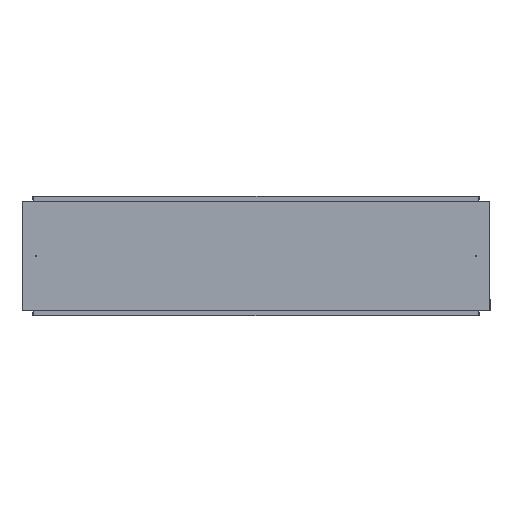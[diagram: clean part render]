
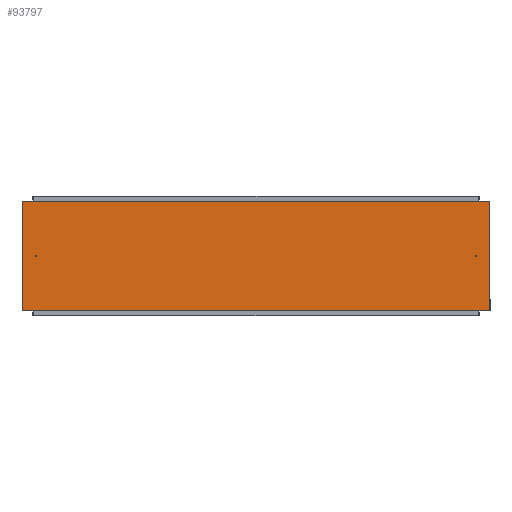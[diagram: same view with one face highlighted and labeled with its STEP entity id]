
A CAD part, left-side view. The second image highlights one B-rep face of the part: STEP entity #93797.
In plain terms, the highlighted planar face has unit normal (-1, 0, 0) as drawn and (0, 0, -1) by its records, which use the part's own axes.
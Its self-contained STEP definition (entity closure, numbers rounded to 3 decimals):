
#1585 = VERTEX_POINT ( 'NONE', #46003 ) ;
#3262 = VECTOR ( 'NONE', #16239, 1000. ) ;
#10173 = DIRECTION ( 'NONE',  ( 1., 0., 0. ) ) ;
#10463 = ORIENTED_EDGE ( 'NONE', *, *, #74102, .F. ) ;
#13558 = AXIS2_PLACEMENT_3D ( 'NONE', #34584, #45820, #53650 ) ;
#16239 = DIRECTION ( 'NONE',  ( 0., 1., 0. ) ) ;
#16622 = EDGE_CURVE ( 'NONE', #135058, #1585, #102791, .T. ) ;
#18296 = DIRECTION ( 'NONE',  ( -1., 0., 0. ) ) ;
#22949 = EDGE_LOOP ( 'NONE', ( #10463, #108927, #98398, #111801 ) ) ;
#26796 = CARTESIAN_POINT ( 'NONE',  ( 233.49, 998.5, 0. ) ) ;
#28729 = CARTESIAN_POINT ( 'NONE',  ( 233.49, -998.5, 0. ) ) ;
#33225 = FACE_OUTER_BOUND ( 'NONE', #22949, .T. ) ;
#34584 = CARTESIAN_POINT ( 'NONE',  ( -233.49, -998.5, 0. ) ) ;
#38462 = CARTESIAN_POINT ( 'NONE',  ( -233.49, 998.5, 0. ) ) ;
#44464 = PLANE ( 'NONE',  #13558 ) ;
#45820 = DIRECTION ( 'NONE',  ( 0., 0., 1. ) ) ;
#46003 = CARTESIAN_POINT ( 'NONE',  ( 233.49, 998.5, 0. ) ) ;
#53650 = DIRECTION ( 'NONE',  ( 1., 0., 0. ) ) ;
#56747 = VECTOR ( 'NONE', #136326, 1000. ) ;
#60879 = LINE ( 'NONE', #62945, #63404 ) ;
#62945 = CARTESIAN_POINT ( 'NONE',  ( -233.49, -998.5, 0. ) ) ;
#63404 = VECTOR ( 'NONE', #10173, 1000. ) ;
#70831 = LINE ( 'NONE', #38462, #56747 ) ;
#71765 = CARTESIAN_POINT ( 'NONE',  ( -233.49, 998.5, 0. ) ) ;
#74102 = EDGE_CURVE ( 'NONE', #94707, #108124, #70831, .T. ) ;
#89101 = VECTOR ( 'NONE', #18296, 1000. ) ;
#93797 = ADVANCED_FACE ( 'NONE', ( #33225 ), #44464, .F. ) ;
#94707 = VERTEX_POINT ( 'NONE', #128663 ) ;
#96967 = EDGE_CURVE ( 'NONE', #108124, #135058, #60879, .T. ) ;
#98398 = ORIENTED_EDGE ( 'NONE', *, *, #16622, .F. ) ;
#102791 = LINE ( 'NONE', #26796, #3262 ) ;
#108124 = VERTEX_POINT ( 'NONE', #111906 ) ;
#108927 = ORIENTED_EDGE ( 'NONE', *, *, #128781, .F. ) ;
#111801 = ORIENTED_EDGE ( 'NONE', *, *, #96967, .F. ) ;
#111906 = CARTESIAN_POINT ( 'NONE',  ( -233.49, -998.5, 0. ) ) ;
#125310 = LINE ( 'NONE', #71765, #89101 ) ;
#128663 = CARTESIAN_POINT ( 'NONE',  ( -233.49, 998.5, 0. ) ) ;
#128781 = EDGE_CURVE ( 'NONE', #1585, #94707, #125310, .T. ) ;
#135058 = VERTEX_POINT ( 'NONE', #28729 ) ;
#136326 = DIRECTION ( 'NONE',  ( 0., -1., 0. ) ) ;
